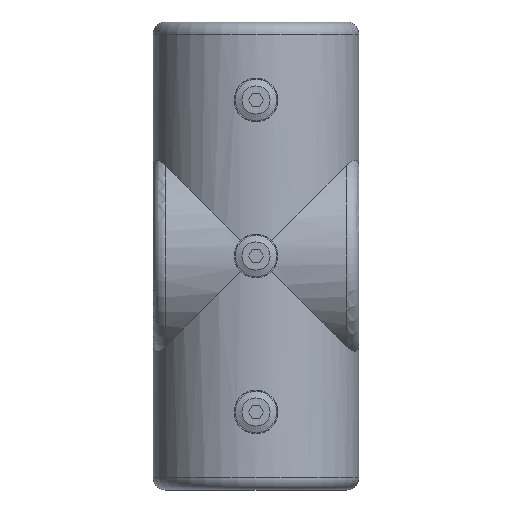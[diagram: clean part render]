
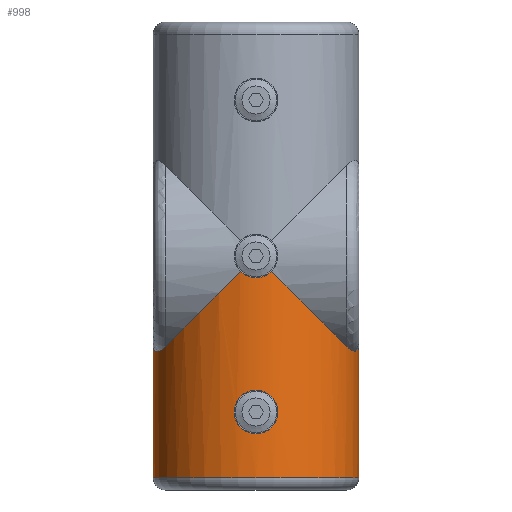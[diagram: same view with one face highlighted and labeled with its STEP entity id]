
A CAD part, front view. The second image highlights one B-rep face of the part: STEP entity #998.
In plain terms, the highlighted cylindrical face has radius 33 mm (diameter 66 mm), a partial arc.
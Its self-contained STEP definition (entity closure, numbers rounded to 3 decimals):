
#52=FACE_BOUND('',#319,.T.);
#64=LINE('',#1659,#131);
#69=LINE('',#1668,#136);
#131=VECTOR('',#1306,10.);
#136=VECTOR('',#1313,10.);
#231=ELLIPSE('',#1161,46.669,33.);
#232=ELLIPSE('',#1166,46.669,33.);
#240=CYLINDRICAL_SURFACE('',#1174,33.);
#261=FACE_OUTER_BOUND('',#318,.T.);
#318=EDGE_LOOP('',(#706,#707,#708,#709,#710,#711,#712,#713,#714));
#319=EDGE_LOOP('',(#715,#716,#717));
#388=CIRCLE('',#1172,33.);
#418=B_SPLINE_CURVE_WITH_KNOTS('',3,(#1562,#1563,#1564,#1565,#1566,#1567,
#1568,#1569,#1570,#1571),.UNSPECIFIED.,.F.,.F.,(4,2,2,2,4),(-0.002,
0.,0.566,1.128,1.692),.UNSPECIFIED.);
#423=B_SPLINE_CURVE_WITH_KNOTS('',3,(#1620,#1621,#1622,#1623,#1624,#1625,
#1626,#1627,#1628,#1629),.UNSPECIFIED.,.F.,.F.,(4,2,2,2,4),(4.238,
4.69,5.14,5.592,5.594),
 .UNSPECIFIED.);
#426=B_SPLINE_CURVE_WITH_KNOTS('',3,(#1670,#1671,#1672,#1673,#1674,#1675),
 .UNSPECIFIED.,.F.,.F.,(4,2,4),(-1.587,-1.323,-1.058),
 .UNSPECIFIED.);
#427=B_SPLINE_CURVE_WITH_KNOTS('',3,(#1676,#1677,#1678,#1679,#1680,#1681),
 .UNSPECIFIED.,.F.,.F.,(4,2,4),(-1.058,-0.794,-0.529),
 .UNSPECIFIED.);
#428=B_SPLINE_CURVE_WITH_KNOTS('',3,(#1684,#1685,#1686,#1687,#1688,#1689,
#1690,#1691,#1692,#1693,#1694,#1695,#1696,#1697,#1698,#1699,#1700,#1701),
 .UNSPECIFIED.,.F.,.F.,(4,2,2,2,2,2,2,2,4),(1.058,1.323,
1.587,1.852,2.116,2.381,2.645,
2.91,3.175),.UNSPECIFIED.);
#429=B_SPLINE_CURVE_WITH_KNOTS('',3,(#1703,#1704,#1705,#1706,#1707,#1708,
#1709,#1710,#1711,#1712),.UNSPECIFIED.,.F.,.F.,(4,2,2,2,4),(3.175,
3.439,3.704,3.968,4.233),
 .UNSPECIFIED.);
#430=B_SPLINE_CURVE_WITH_KNOTS('',3,(#1713,#1714,#1715,#1716,#1717,#1718,
#1719,#1720,#1721,#1722),.UNSPECIFIED.,.F.,.F.,(4,2,2,2,4),(4.233,
4.497,4.762,5.026,5.291),
 .UNSPECIFIED.);
#445=VERTEX_POINT('',#1560);
#446=VERTEX_POINT('',#1561);
#451=VERTEX_POINT('',#1596);
#454=VERTEX_POINT('',#1617);
#455=VERTEX_POINT('',#1619);
#456=VERTEX_POINT('',#1632);
#459=VERTEX_POINT('',#1650);
#462=VERTEX_POINT('',#1655);
#466=VERTEX_POINT('',#1669);
#467=VERTEX_POINT('',#1682);
#468=VERTEX_POINT('',#1683);
#469=VERTEX_POINT('',#1702);
#539=EDGE_CURVE('',#445,#446,#418,.T.);
#546=EDGE_CURVE('',#446,#451,#231,.T.);
#549=EDGE_CURVE('',#454,#455,#423,.F.);
#551=EDGE_CURVE('',#456,#455,#232,.T.);
#558=EDGE_CURVE('',#462,#459,#388,.T.);
#559=EDGE_CURVE('',#454,#459,#64,.T.);
#564=EDGE_CURVE('',#462,#445,#69,.T.);
#565=EDGE_CURVE('',#451,#466,#426,.T.);
#566=EDGE_CURVE('',#466,#456,#427,.T.);
#567=EDGE_CURVE('',#467,#468,#428,.T.);
#568=EDGE_CURVE('',#468,#469,#429,.T.);
#569=EDGE_CURVE('',#469,#467,#430,.T.);
#706=ORIENTED_EDGE('',*,*,#558,.F.);
#707=ORIENTED_EDGE('',*,*,#564,.T.);
#708=ORIENTED_EDGE('',*,*,#539,.T.);
#709=ORIENTED_EDGE('',*,*,#546,.T.);
#710=ORIENTED_EDGE('',*,*,#565,.T.);
#711=ORIENTED_EDGE('',*,*,#566,.T.);
#712=ORIENTED_EDGE('',*,*,#551,.T.);
#713=ORIENTED_EDGE('',*,*,#549,.F.);
#714=ORIENTED_EDGE('',*,*,#559,.T.);
#715=ORIENTED_EDGE('',*,*,#567,.T.);
#716=ORIENTED_EDGE('',*,*,#568,.T.);
#717=ORIENTED_EDGE('',*,*,#569,.T.);
#998=ADVANCED_FACE('',(#261,#52),#240,.T.);
#1161=AXIS2_PLACEMENT_3D('',#1603,#1280,#1281);
#1166=AXIS2_PLACEMENT_3D('',#1633,#1290,#1291);
#1172=AXIS2_PLACEMENT_3D('',#1657,#1302,#1303);
#1174=AXIS2_PLACEMENT_3D('',#1667,#1311,#1312);
#1280=DIRECTION('center_axis',(0.707,0.,-0.707));
#1281=DIRECTION('ref_axis',(-0.707,0.,-0.707));
#1290=DIRECTION('center_axis',(-0.707,0.,-0.707));
#1291=DIRECTION('ref_axis',(0.707,0.,-0.707));
#1302=DIRECTION('center_axis',(0.,0.,-1.));
#1303=DIRECTION('ref_axis',(0.,1.,0.));
#1306=DIRECTION('',(0.,0.,-1.));
#1311=DIRECTION('center_axis',(0.,0.,1.));
#1312=DIRECTION('ref_axis',(1.,0.,0.));
#1313=DIRECTION('',(0.,0.,1.));
#1560=CARTESIAN_POINT('',(-33.,0.,-29.));
#1561=CARTESIAN_POINT('',(-29.,15.748,-29.));
#1562=CARTESIAN_POINT('Ctrl Pts',(-33.,0.,-29.));
#1563=CARTESIAN_POINT('Ctrl Pts',(-33.,0.006,-29.002));
#1564=CARTESIAN_POINT('Ctrl Pts',(-33.,0.013,-29.004));
#1565=CARTESIAN_POINT('Ctrl Pts',(-32.999,1.801,-29.626));
#1566=CARTESIAN_POINT('Ctrl Pts',(-32.853,3.63,-30.098));
#1567=CARTESIAN_POINT('Ctrl Pts',(-32.237,7.292,-30.633));
#1568=CARTESIAN_POINT('Ctrl Pts',(-31.772,9.109,-30.697));
#1569=CARTESIAN_POINT('Ctrl Pts',(-30.55,12.617,-30.281));
#1570=CARTESIAN_POINT('Ctrl Pts',(-29.804,14.268,-29.804));
#1571=CARTESIAN_POINT('Ctrl Pts',(-29.,15.748,-29.));
#1596=CARTESIAN_POINT('',(-4.95,32.627,-4.95));
#1603=CARTESIAN_POINT('Origin',(0.,0.,0.));
#1617=CARTESIAN_POINT('',(33.,0.,-29.));
#1619=CARTESIAN_POINT('',(29.,15.748,-29.));
#1620=CARTESIAN_POINT('Ctrl Pts',(29.,15.748,-29.));
#1621=CARTESIAN_POINT('Ctrl Pts',(29.804,14.268,-29.804));
#1622=CARTESIAN_POINT('Ctrl Pts',(30.55,12.617,-30.281));
#1623=CARTESIAN_POINT('Ctrl Pts',(31.772,9.109,-30.697));
#1624=CARTESIAN_POINT('Ctrl Pts',(32.237,7.292,-30.633));
#1625=CARTESIAN_POINT('Ctrl Pts',(32.853,3.63,-30.098));
#1626=CARTESIAN_POINT('Ctrl Pts',(32.999,1.801,-29.626));
#1627=CARTESIAN_POINT('Ctrl Pts',(33.,0.013,-29.004));
#1628=CARTESIAN_POINT('Ctrl Pts',(33.,0.006,-29.002));
#1629=CARTESIAN_POINT('Ctrl Pts',(33.,0.,-29.));
#1632=CARTESIAN_POINT('',(4.95,32.627,-4.95));
#1633=CARTESIAN_POINT('Origin',(0.,0.,0.));
#1650=CARTESIAN_POINT('',(33.,0.,-71.));
#1655=CARTESIAN_POINT('',(-33.,0.,-71.));
#1657=CARTESIAN_POINT('Origin',(0.,0.,-71.));
#1659=CARTESIAN_POINT('',(33.,0.,0.));
#1667=CARTESIAN_POINT('Origin',(0.,0.,0.));
#1668=CARTESIAN_POINT('',(-33.,0.,0.));
#1669=CARTESIAN_POINT('',(0.,33.,-7.));
#1670=CARTESIAN_POINT('Ctrl Pts',(-4.95,32.627,-4.95));
#1671=CARTESIAN_POINT('Ctrl Pts',(-4.33,32.721,-5.57));
#1672=CARTESIAN_POINT('Ctrl Pts',(-3.544,32.82,-6.108));
#1673=CARTESIAN_POINT('Ctrl Pts',(-1.821,32.961,-6.823));
#1674=CARTESIAN_POINT('Ctrl Pts',(-0.882,33.,-7.));
#1675=CARTESIAN_POINT('Ctrl Pts',(0.,33.,-7.));
#1676=CARTESIAN_POINT('Ctrl Pts',(0.,33.,-7.));
#1677=CARTESIAN_POINT('Ctrl Pts',(0.882,33.,-7.));
#1678=CARTESIAN_POINT('Ctrl Pts',(1.821,32.961,-6.823));
#1679=CARTESIAN_POINT('Ctrl Pts',(3.544,32.82,-6.108));
#1680=CARTESIAN_POINT('Ctrl Pts',(4.33,32.721,-5.57));
#1681=CARTESIAN_POINT('Ctrl Pts',(4.95,32.627,-4.95));
#1682=CARTESIAN_POINT('',(0.,33.,-43.));
#1683=CARTESIAN_POINT('',(0.,33.,-57.));
#1684=CARTESIAN_POINT('Ctrl Pts',(0.,33.,-43.));
#1685=CARTESIAN_POINT('Ctrl Pts',(-0.882,33.,-43.));
#1686=CARTESIAN_POINT('Ctrl Pts',(-1.821,32.961,-43.177));
#1687=CARTESIAN_POINT('Ctrl Pts',(-3.544,32.82,-43.892));
#1688=CARTESIAN_POINT('Ctrl Pts',(-4.33,32.721,-44.43));
#1689=CARTESIAN_POINT('Ctrl Pts',(-5.57,32.533,-45.67));
#1690=CARTESIAN_POINT('Ctrl Pts',(-6.108,32.432,-46.456));
#1691=CARTESIAN_POINT('Ctrl Pts',(-6.823,32.289,-48.179));
#1692=CARTESIAN_POINT('Ctrl Pts',(-7.,32.249,-49.118));
#1693=CARTESIAN_POINT('Ctrl Pts',(-7.,32.249,-50.882));
#1694=CARTESIAN_POINT('Ctrl Pts',(-6.823,32.289,-51.821));
#1695=CARTESIAN_POINT('Ctrl Pts',(-6.108,32.432,-53.544));
#1696=CARTESIAN_POINT('Ctrl Pts',(-5.57,32.533,-54.33));
#1697=CARTESIAN_POINT('Ctrl Pts',(-4.33,32.721,-55.57));
#1698=CARTESIAN_POINT('Ctrl Pts',(-3.544,32.82,-56.108));
#1699=CARTESIAN_POINT('Ctrl Pts',(-1.821,32.961,-56.823));
#1700=CARTESIAN_POINT('Ctrl Pts',(-0.882,33.,-57.));
#1701=CARTESIAN_POINT('Ctrl Pts',(0.,33.,-57.));
#1702=CARTESIAN_POINT('',(7.,32.249,-50.));
#1703=CARTESIAN_POINT('Ctrl Pts',(0.,33.,-57.));
#1704=CARTESIAN_POINT('Ctrl Pts',(0.882,33.,-57.));
#1705=CARTESIAN_POINT('Ctrl Pts',(1.821,32.961,-56.823));
#1706=CARTESIAN_POINT('Ctrl Pts',(3.544,32.82,-56.108));
#1707=CARTESIAN_POINT('Ctrl Pts',(4.33,32.721,-55.57));
#1708=CARTESIAN_POINT('Ctrl Pts',(5.57,32.533,-54.33));
#1709=CARTESIAN_POINT('Ctrl Pts',(6.108,32.432,-53.544));
#1710=CARTESIAN_POINT('Ctrl Pts',(6.823,32.289,-51.821));
#1711=CARTESIAN_POINT('Ctrl Pts',(7.,32.249,-50.882));
#1712=CARTESIAN_POINT('Ctrl Pts',(7.,32.249,-50.));
#1713=CARTESIAN_POINT('Ctrl Pts',(7.,32.249,-50.));
#1714=CARTESIAN_POINT('Ctrl Pts',(7.,32.249,-49.118));
#1715=CARTESIAN_POINT('Ctrl Pts',(6.823,32.289,-48.179));
#1716=CARTESIAN_POINT('Ctrl Pts',(6.108,32.432,-46.456));
#1717=CARTESIAN_POINT('Ctrl Pts',(5.57,32.533,-45.67));
#1718=CARTESIAN_POINT('Ctrl Pts',(4.33,32.721,-44.43));
#1719=CARTESIAN_POINT('Ctrl Pts',(3.544,32.82,-43.892));
#1720=CARTESIAN_POINT('Ctrl Pts',(1.821,32.961,-43.177));
#1721=CARTESIAN_POINT('Ctrl Pts',(0.882,33.,-43.));
#1722=CARTESIAN_POINT('Ctrl Pts',(0.,33.,-43.));
